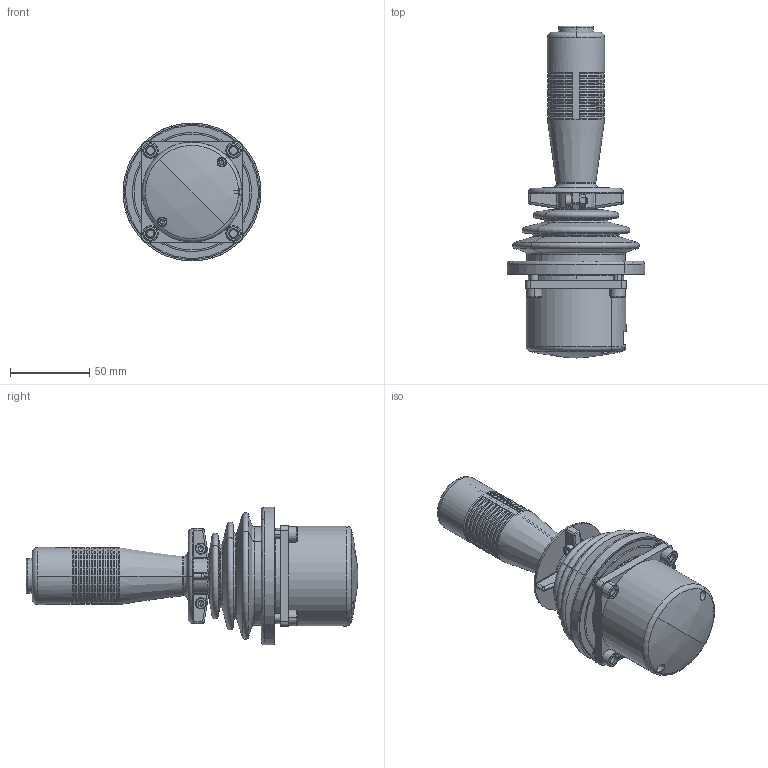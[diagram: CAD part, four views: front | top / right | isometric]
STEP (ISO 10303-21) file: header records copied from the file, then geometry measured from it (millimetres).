
FILE_DESCRIPTION (( 'STEP AP214' ), '1' );
FILE_NAME ('SH60JHK-YQ-2S1R2G_105.STEP', '2019-06-22T00:52:37', ( '' ), ( '' ), 'SwSTEP 2.0', 'SolidWorks 2018', '' );
FILE_SCHEMA (( 'AUTOMOTIVE_DESIGN' ));
Length unit declared in the file: millimetre
Products named in the file (1): SH60JHK-YQ-2S1R2G_105
Bounding box: 86.67 x 209 x 86.67 mm (x, y, z)
Volume: 144850.2 mm3; surface area: 124216 mm2
Topology: 2 solids, 8 shells, 1400 faces, 3462 edges, 2148 vertices
Faces by surface type: plane 490, cylinder 352, cone 252, torus 207, bspline 58, sphere 41
Entity records: 49907 total; most frequent: CARTESIAN_POINT 13435, DIRECTION 7122, ORIENTED_EDGE 6884, EDGE_CURVE 3442, AXIS2_PLACEMENT_3D 2945, VERTEX_POINT 2148, CIRCLE 1602, EDGE_LOOP 1516
